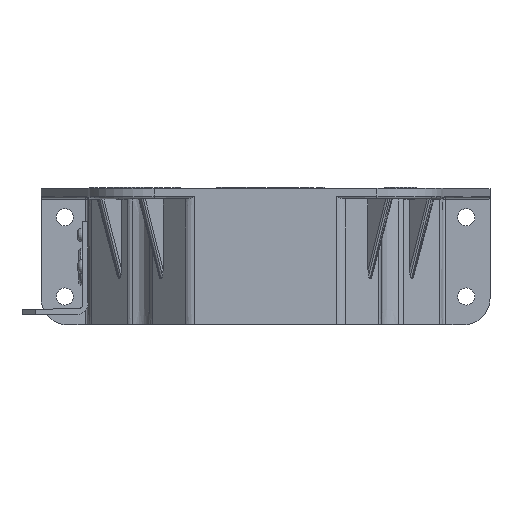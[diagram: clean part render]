
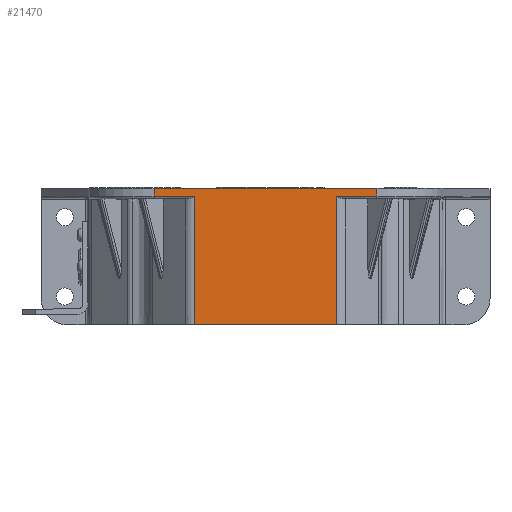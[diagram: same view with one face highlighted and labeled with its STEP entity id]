
A CAD part, top view. The second image highlights one B-rep face of the part: STEP entity #21470.
In plain terms, the highlighted planar face has unit normal (0, -0.004, 1) as drawn and (0, 1, 0.003) by its records, which use the part's own axes.
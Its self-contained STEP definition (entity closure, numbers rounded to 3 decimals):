
#20760=CARTESIAN_POINT('',(26.889,66.38,
-51.5));
#20770=DIRECTION('',(0.,1.,0.003));
#20780=DIRECTION('',(-1.,0.,0.));
#20790=AXIS2_PLACEMENT_3D('',#20760,#20770,#20780);
#20800=PLANE('',#20790);
#20810=CARTESIAN_POINT('',(-26.889,66.2,0.));
#20820=DIRECTION('',(0.,0.003,-1.));
#20830=VECTOR('',#20820,1.);
#20840=LINE('',#20810,#20830);
#20850=CARTESIAN_POINT('',(-26.889,66.2,0.));
#20860=VERTEX_POINT('',#20850);
#20870=CARTESIAN_POINT('',(-26.889,66.37,
-48.497));
#20880=VERTEX_POINT('',#20870);
#20890=EDGE_CURVE('',#20860,#20880,#20840,.T.);
#20900=ORIENTED_EDGE('',*,*,#20890,.F.);
#20910=CARTESIAN_POINT('',(0.,66.37,-48.497));
#20920=DIRECTION('',(1.,0.,0.));
#20930=VECTOR('',#20920,1.);
#20940=LINE('',#20910,#20930);
#20950=CARTESIAN_POINT('',(-42.2,66.37,
-48.497));
#20960=VERTEX_POINT('',#20950);
#20970=EDGE_CURVE('',#20960,#20880,#20940,.T.);
#20980=ORIENTED_EDGE('',*,*,#20970,.T.);
#20990=CARTESIAN_POINT('',(-42.2,66.38,
-51.5));
#21000=DIRECTION('',(0.,-0.003,1.));
#21010=VECTOR('',#21000,1.);
#21020=LINE('',#20990,#21010);
#21030=CARTESIAN_POINT('',(-42.2,66.38,
-51.5));
#21040=VERTEX_POINT('',#21030);
#21050=EDGE_CURVE('',#21040,#20960,#21020,.T.);
#21060=ORIENTED_EDGE('',*,*,#21050,.T.);
#21070=CARTESIAN_POINT('',(0.,66.38,-51.5));
#21080=DIRECTION('',(-1.,0.,0.));
#21090=VECTOR('',#21080,1.);
#21100=LINE('',#21070,#21090);
#21110=CARTESIAN_POINT('',(42.2,66.38,-51.5));
#21120=VERTEX_POINT('',#21110);
#21130=EDGE_CURVE('',#21120,#21040,#21100,.T.);
#21140=ORIENTED_EDGE('',*,*,#21130,.T.);
#21150=CARTESIAN_POINT('',(42.2,66.38,
-51.5));
#21160=DIRECTION('',(0.,-0.003,1.));
#21170=VECTOR('',#21160,1.);
#21180=LINE('',#21150,#21170);
#21190=CARTESIAN_POINT('',(42.2,66.37,
-48.497));
#21200=VERTEX_POINT('',#21190);
#21210=EDGE_CURVE('',#21120,#21200,#21180,.T.);
#21220=ORIENTED_EDGE('',*,*,#21210,.F.);
#21230=CARTESIAN_POINT('',(0.,66.37,-48.497));
#21240=DIRECTION('',(-1.,0.,0.));
#21250=VECTOR('',#21240,1.);
#21260=LINE('',#21230,#21250);
#21270=CARTESIAN_POINT('',(26.889,66.37,
-48.497));
#21280=VERTEX_POINT('',#21270);
#21290=EDGE_CURVE('',#21200,#21280,#21260,.T.);
#21300=ORIENTED_EDGE('',*,*,#21290,.F.);
#21310=CARTESIAN_POINT('',(26.889,66.2,0.));
#21320=DIRECTION('',(0.,0.003,-1.));
#21330=VECTOR('',#21320,1.);
#21340=LINE('',#21310,#21330);
#21350=CARTESIAN_POINT('',(26.889,66.2,0.));
#21360=VERTEX_POINT('',#21350);
#21370=EDGE_CURVE('',#21360,#21280,#21340,.T.);
#21380=ORIENTED_EDGE('',*,*,#21370,.T.);
#21390=CARTESIAN_POINT('',(0.,66.2,0.));
#21400=DIRECTION('',(-1.,0.,0.));
#21410=VECTOR('',#21400,1.);
#21420=LINE('',#21390,#21410);
#21430=EDGE_CURVE('',#21360,#20860,#21420,.T.);
#21440=ORIENTED_EDGE('',*,*,#21430,.F.);
#21450=EDGE_LOOP('',(#21440,#21380,#21300,#21220,#21140,#21060,#20980,
#20900));
#21460=FACE_OUTER_BOUND('',#21450,.T.);
#21470=ADVANCED_FACE('',(#21460),#20800,.T.);
